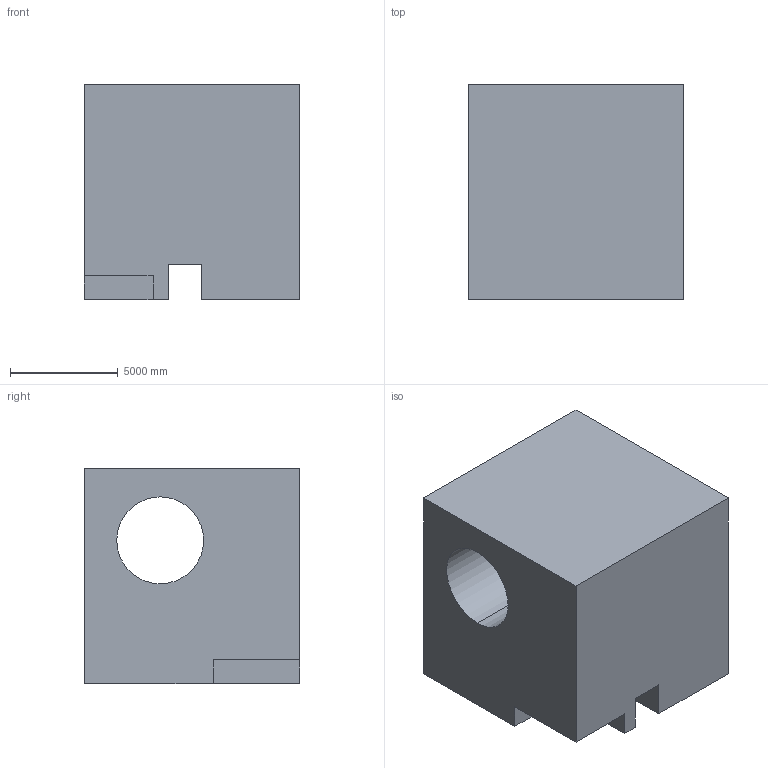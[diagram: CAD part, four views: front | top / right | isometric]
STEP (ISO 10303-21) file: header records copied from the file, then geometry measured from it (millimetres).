
FILE_DESCRIPTION (( 'STEP AP203' ), '1' );
FILE_NAME ('242.STEP', '2022-09-07T12:24:45', ( 'user' ), ( '' ), 'SwSTEP 2.0', 'SolidWorks 2021', '' );
FILE_SCHEMA (( 'CONFIG_CONTROL_DESIGN' ));
Length unit declared in the file: centimetre
Products named in the file (1): 242
Bounding box: 10000 x 10000 x 10000 mm (x, y, z)
Volume: 832627892781.4 mm3; surface area: 728903051.9 mm2
Topology: 1 solids, 1 shells, 15 faces, 39 edges, 26 vertices
Faces by surface type: plane 13, cylinder 2
Entity records: 538 total; most frequent: CARTESIAN_POINT 81, ORIENTED_EDGE 78, DIRECTION 75, EDGE_CURVE 39, LINE 35, VECTOR 35, VERTEX_POINT 26, AXIS2_PLACEMENT_3D 20
